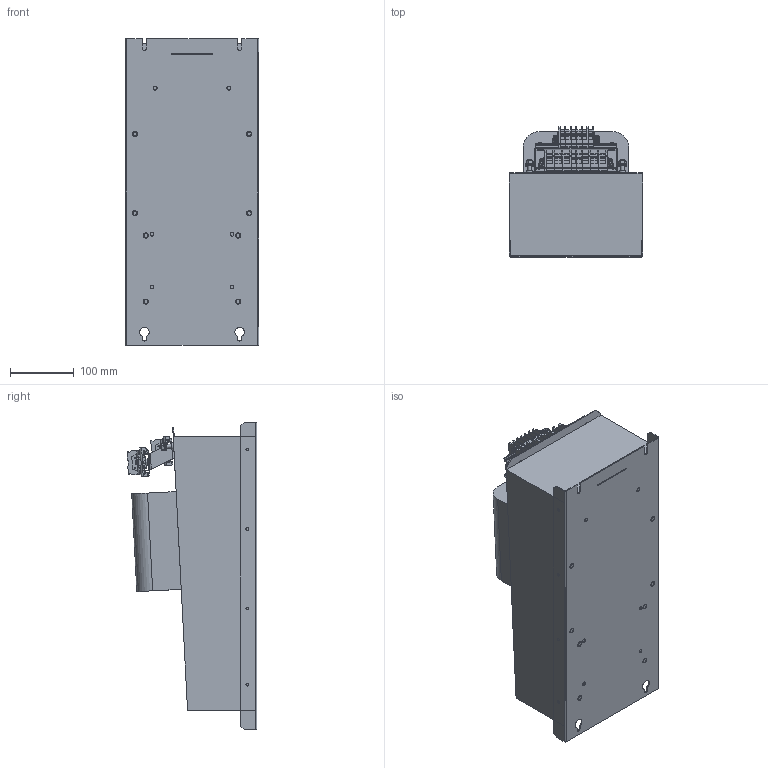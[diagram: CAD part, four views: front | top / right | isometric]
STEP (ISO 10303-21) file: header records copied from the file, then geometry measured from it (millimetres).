
FILE_DESCRIPTION((''),'2;1');
FILE_NAME('C:\SapWorkDir\Inventor\P01\C\EcosineEVO-CnL-E0XXJXX.stp','2016-09-30T08:59:37',('erika.jenzer'),(''),'Autodesk Inventor 2013','Autodesk Inventor 2013','');
FILE_SCHEMA(('AUTOMOTIVE_DESIGN { 1 0 10303 214 1 1 1 1 }'));
Length unit declared in the file: millimetre
Products named in the file (22): 155438_3D MODEL GLORIA FRAME C; 155439_BASE PLATE C WITH INSERTS; 155440_BASE PLATE C; 112655_INSERT BOLT FH M6X15; 112624_INSERT BOLT FH M5X12; 155443_HOUSING C WITH INSERTS; 112718_INSERT NUT SS M6; 155447_TERMINAL MODULE BC; 156544_DIN RAIL TH35-7.5 BC; 155445_DIN RAIL TH35-7.5 BC; 153988_DKB10; 153991_DKB30; 156473_END COVER DKB10E; 160160_SS9A; 155464_TDJ MODULE BC; 156545_DIN RAIL TH35-7.5 BC-J; 122859_EARTH SCREW M 6 X 25; DIN EN 1661 M5; 155463_TERMINAL SUPPORT C WITH INSERTS; 155461_TERMINAL SUPPORT BC; 159497_INSULATING FOIL BC; 163255_GLORIA C STP DUMMY
Assembly tree (52 placements, depth 4):
  155438_3D MODEL GLORIA FRAME C
    155439_BASE PLATE C WITH INSERTS
      155440_BASE PLATE C
      112655_INSERT BOLT FH M6X15  x8
      112624_INSERT BOLT FH M5X12  x2
    155443_HOUSING C WITH INSERTS
      112718_INSERT NUT SS M6  x2
    155447_TERMINAL MODULE BC
      156544_DIN RAIL TH35-7.5 BC
        155445_DIN RAIL TH35-7.5 BC
        112624_INSERT BOLT FH M5X12  x2
      153988_DKB10  x2
      153991_DKB30  x6
      156473_END COVER DKB10E
      160160_SS9A  x2
    155464_TDJ MODULE BC
      156545_DIN RAIL TH35-7.5 BC-J
      153988_DKB10  x6
      156473_END COVER DKB10E
      160160_SS9A  x2
    122859_EARTH SCREW M 6 X 25  x2
    DIN EN 1661 M5  x2
    155463_TERMINAL SUPPORT C WITH INSERTS
      155461_TERMINAL SUPPORT BC
      112624_INSERT BOLT FH M5X12  x2
    159497_INSULATING FOIL BC
    163255_GLORIA C STP DUMMY
Bounding box: 210.12 x 204.03 x 483 mm (x, y, z)
Volume: 12776503.5 mm3; surface area: 780309.1 mm2
Topology: 46 solids, 46 shells, 3781 faces, 10202 edges, 6734 vertices
Faces by surface type: plane 2489, cylinder 924, torus 126, cone 106, sphere 64, revolution 64, bspline 8
Full cylindrical faces by diameter (mm): 1.5 x16, 2.9 x16, 3.7 x16, 3.9 x12, 4 x12, 4.134 x2, 4.3 x8, 4.917 x2, 5 x24, 5.459 x2, 5.5 x6, 6 x40, 6.206 x6, 6.4 x2, 6.5 x6, 7 x20, 7.475 x8, 8 x2, 8.2 x8, 8.7 x2, 9 x2, 9.49 x2, 11.05 x2, 12 x2
Entity records: 29368 total; most frequent: CARTESIAN_POINT 5763, DIRECTION 4775, ORIENTED_EDGE 4604, EDGE_CURVE 2302, AXIS2_PLACEMENT_3D 1599, VECTOR 1569, LINE 1569, VERTEX_POINT 1565
